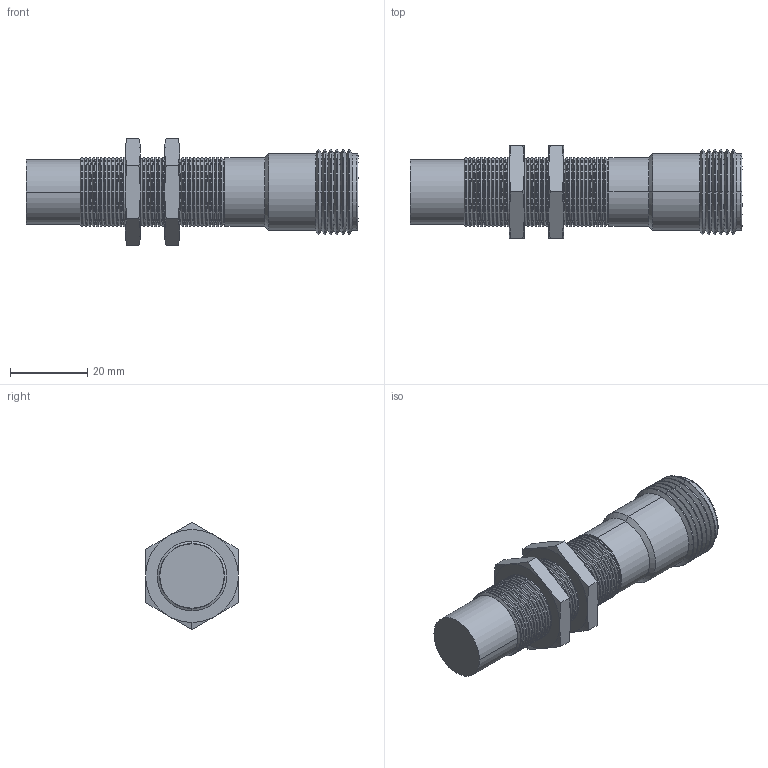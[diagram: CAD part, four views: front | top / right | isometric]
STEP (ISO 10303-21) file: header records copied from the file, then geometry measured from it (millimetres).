
FILE_DESCRIPTION (( 'STEP AP203' ), '1' );
FILE_NAME ('90-XXXX-023.STEP', '2015-08-31T03:22:17', ( 'Sam' ), ( 'Spade' ), 'SwSTEP 2.0', 'SolidWorks 2002296', '' );
FILE_SCHEMA (( 'CONFIG_CONTROL_DESIGN' ));
Length unit declared in the file: inch
Products named in the file (10): 90-XXXX-023; Imported126; Imported129; Imported128; Imported127; Imported134; Imported133; Imported132; Imported131; Imported130
Assembly tree (9 placements, depth 2):
  90-XXXX-023
    Imported133
    Imported131
    Imported127
    Imported132
    Imported134
    Imported126
    Imported130
    Imported129
    Imported128
Bounding box: 85.8 x 23.98 x 27.69 mm (x, y, z)
Volume: 22768.2 mm3; surface area: 12832.6 mm2
Topology: 9 solids, 9 shells, 412 faces, 845 edges, 453 vertices
Faces by surface type: cone 246, cylinder 120, plane 38, bspline 8
Entity records: 11815 total; most frequent: DIRECTION 2045, CARTESIAN_POINT 2016, ORIENTED_EDGE 1678, AXIS2_PLACEMENT_3D 842, EDGE_CURVE 839, VERTEX_POINT 453, CIRCLE 426, EDGE_LOOP 424
